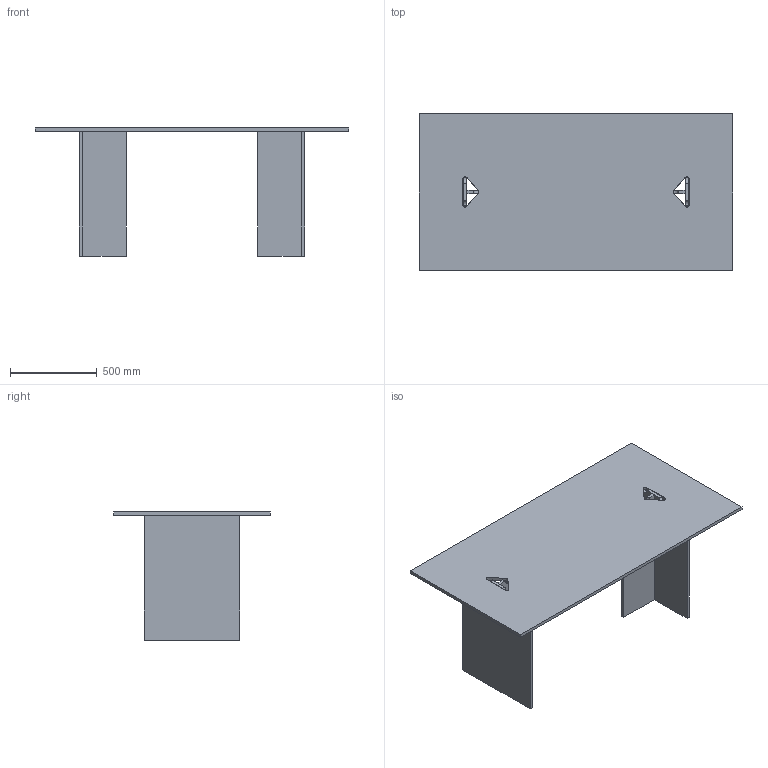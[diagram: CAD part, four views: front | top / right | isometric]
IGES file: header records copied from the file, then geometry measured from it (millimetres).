
Global section: file name: C:\Users\l.marzoli\Desktop\LLT_OFX_EXECUTIVE_3D\LLT-E-18 - LLT OFX Executive 180x90.igs; native system: Rhinoceros ( Aug 11 2021 ); preprocessor: Trout Lake IGES 012 Aug 11 2021; date: 231207.100306; units: millimetre
Bounding box: 1800 x 900 x 737 mm (x, y, z)
Surface area: 5793592.2 mm2 (no closed solid volume)
Topology: 0 solids, 0 shells, 42 faces, 252 edges, 252 vertices
Faces by surface type: bspline 42
